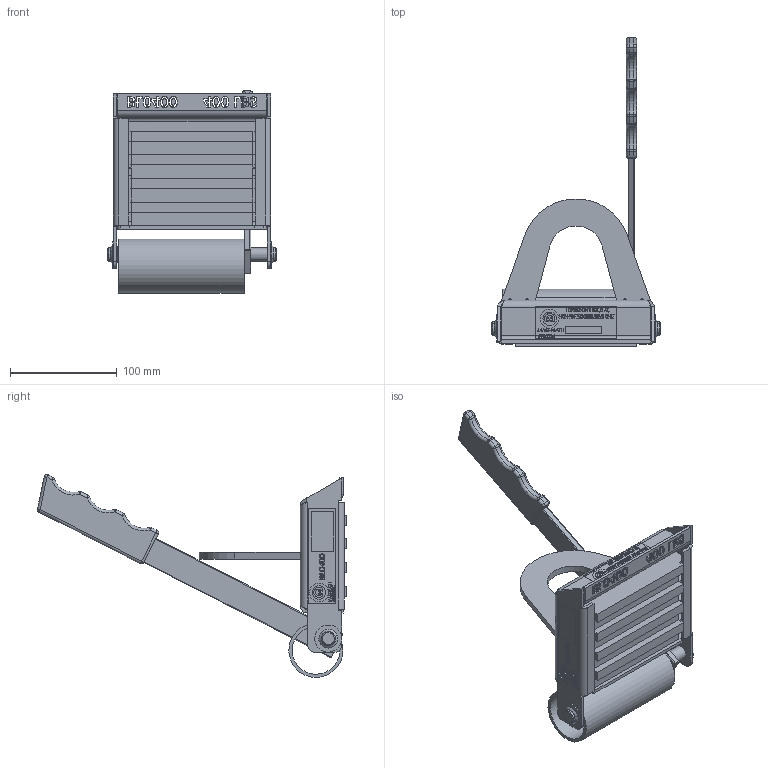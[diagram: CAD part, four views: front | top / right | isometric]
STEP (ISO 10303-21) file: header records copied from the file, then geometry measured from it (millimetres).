
FILE_DESCRIPTION (( 'STEP AP203' ), '1' );
FILE_NAME ('BL0400.STEP', '2018-08-21T20:18:06', ( '' ), ( '' ), 'SwSTEP 2.0', 'SolidWorks 2015', '' );
FILE_SCHEMA (( 'CONFIG_CONTROL_DESIGN' ));
Length unit declared in the file: inch
Products named in the file (1): BL0400
Bounding box: 157.96 x 289.88 x 190.17 mm (x, y, z)
Volume: 673462.5 mm3; surface area: 298883.9 mm2
Topology: 21 solids, 21 shells, 2163 faces, 5674 edges, 3734 vertices
Faces by surface type: plane 1488, bspline 453, cylinder 174, sphere 20, cone 18, torus 10
Entity records: 96691 total; most frequent: CARTESIAN_POINT 46031, ORIENTED_EDGE 11336, DIRECTION 8540, EDGE_CURVE 5668, LINE 4378, VECTOR 4378, VERTEX_POINT 3732, EDGE_LOOP 2408
